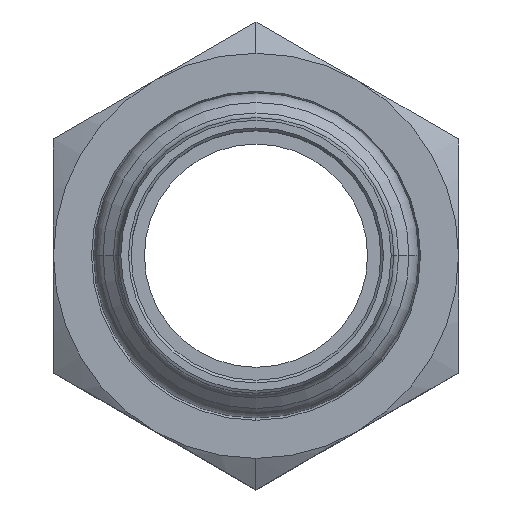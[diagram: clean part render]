
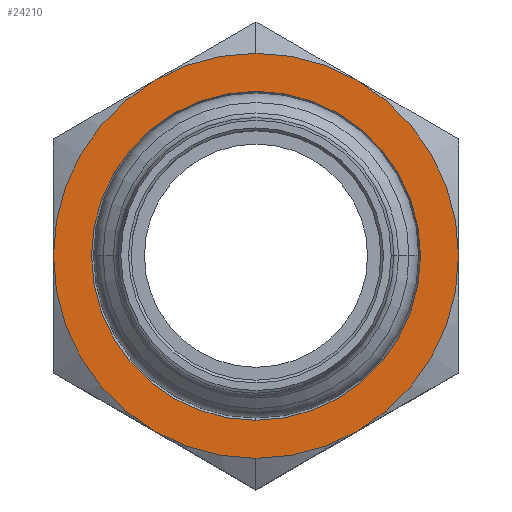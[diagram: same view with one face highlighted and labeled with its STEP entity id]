
A CAD part, top view. The second image highlights one B-rep face of the part: STEP entity #24210.
In plain terms, the highlighted planar face has unit normal (0, 0, 1) as drawn and (1, 0, 0) by its records, which use the part's own axes.
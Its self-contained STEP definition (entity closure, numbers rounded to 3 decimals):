
#21500=CARTESIAN_POINT('',(212.548,124.089,11.5));
#21510=VERTEX_POINT('',#21500);
#22830=CARTESIAN_POINT('',(212.548,81.171,
0.));
#22840=VERTEX_POINT('',#22830);
#23600=CARTESIAN_POINT('',(212.548,84.252,11.5));
#23610=VERTEX_POINT('',#23600);
#23640=CARTESIAN_POINT('',(212.548,104.171,0.));
#23650=DIRECTION('',(-1.,0.,0.));
#23660=DIRECTION('',(0.,-1.,0.));
#23670=AXIS2_PLACEMENT_3D('',#23640,#23650,#23660);
#23680=CIRCLE('',#23670,23.);
#23690=EDGE_CURVE('',#22840,#23610,#23680,.T.);
#23740=CARTESIAN_POINT('',(212.548,92.671,0.));
#23750=DIRECTION('',(-1.,0.,0.));
#23760=DIRECTION('',(0.,1.,0.));
#23770=AXIS2_PLACEMENT_3D('',#23740,#23750,#23760);
#23780=PLANE('',#23770);
#23790=CARTESIAN_POINT('',(212.548,104.171,23.));
#23800=VERTEX_POINT('',#23790);
#23810=EDGE_CURVE('',#23610,#23800,#23680,.T.);
#23820=ORIENTED_EDGE('',*,*,#23810,.F.);
#23830=EDGE_CURVE('',#23800,#21510,#23680,.T.);
#23840=ORIENTED_EDGE('',*,*,#23830,.F.);
#23850=CARTESIAN_POINT('',(212.548,127.171,0.));
#23860=VERTEX_POINT('',#23850);
#23870=EDGE_CURVE('',#21510,#23860,#23680,.T.);
#23880=ORIENTED_EDGE('',*,*,#23870,.F.);
#23890=CARTESIAN_POINT('',(212.548,124.089,-11.5));
#23900=VERTEX_POINT('',#23890);
#23910=EDGE_CURVE('',#23860,#23900,#23680,.T.);
#23920=ORIENTED_EDGE('',*,*,#23910,.F.);
#23930=CARTESIAN_POINT('',(212.548,104.171,-23.));
#23940=VERTEX_POINT('',#23930);
#23950=EDGE_CURVE('',#23900,#23940,#23680,.T.);
#23960=ORIENTED_EDGE('',*,*,#23950,.F.);
#23970=CARTESIAN_POINT('',(212.548,84.252,-11.5));
#23980=VERTEX_POINT('',#23970);
#23990=EDGE_CURVE('',#23940,#23980,#23680,.T.);
#24000=ORIENTED_EDGE('',*,*,#23990,.F.);
#24010=EDGE_CURVE('',#23980,#22840,#23680,.T.);
#24020=ORIENTED_EDGE('',*,*,#24010,.F.);
#24030=ORIENTED_EDGE('',*,*,#23690,.F.);
#24040=EDGE_LOOP('',(#24030,#24020,#24000,#23960,#23920,#23880,#23840,
#23820));
#24050=FACE_OUTER_BOUND('',#24040,.T.);
#24060=CARTESIAN_POINT('',(212.548,104.171,0.));
#24070=DIRECTION('',(1.,0.,0.));
#24080=DIRECTION('',(0.,-1.,0.));
#24090=AXIS2_PLACEMENT_3D('',#24060,#24070,#24080);
#24100=CIRCLE('',#24090,18.677);
#24110=CARTESIAN_POINT('',(212.548,85.493,
0.));
#24120=VERTEX_POINT('',#24110);
#24130=CARTESIAN_POINT('',(212.548,122.848,0.));
#24140=VERTEX_POINT('',#24130);
#24150=EDGE_CURVE('',#24120,#24140,#24100,.T.);
#24160=ORIENTED_EDGE('',*,*,#24150,.F.);
#24170=EDGE_CURVE('',#24140,#24120,#24100,.T.);
#24180=ORIENTED_EDGE('',*,*,#24170,.F.);
#24190=EDGE_LOOP('',(#24180,#24160));
#24200=FACE_BOUND('',#24190,.T.);
#24210=ADVANCED_FACE('',(#24050,#24200),#23780,.F.);
